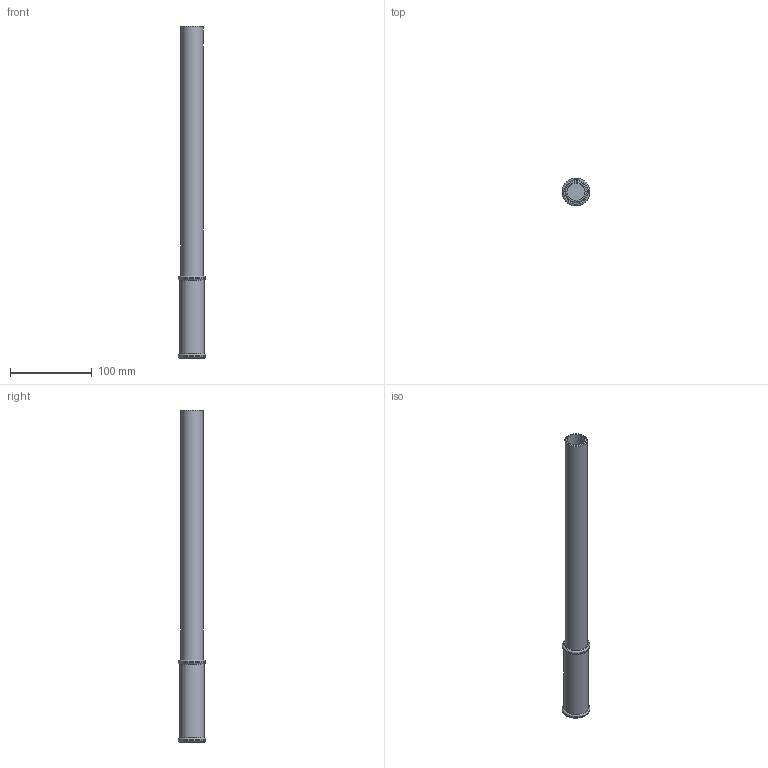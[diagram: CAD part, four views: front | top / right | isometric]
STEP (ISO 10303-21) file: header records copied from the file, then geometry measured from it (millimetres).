
FILE_DESCRIPTION(/* description */ ('Unknown'),/* implementation_level */ '2;1');
FILE_NAME(/* name */ 'LV27X400',/* time_stamp */ '2024-11-27T16:36:42+01:00',/* author */ ('Unknown'),/* organization */ ('Unknown'),/* preprocessor_version */ 'ST-DEVELOPER v19.4',/* originating_system */ 'Solid Edge',/* authorisation */ 'Unknown');
FILE_SCHEMA (('AUTOMOTIVE_DESIGN {1 0 10303 214 3 1 1}'));
Length unit declared in the file: millimetre
Products named in the file (1): LV27X400
Bounding box: 33.97 x 33.97 x 405 mm (x, y, z)
Volume: 94824.9 mm3; surface area: 64860.8 mm2
Topology: 1 solids, 1 shells, 15 faces, 33 edges, 20 vertices
Faces by surface type: cylinder 6, plane 4, torus 4, cone 1
Full cylindrical faces by diameter (mm): 5 x1, 22 x1, 27 x1, 30 x1, 34 x2
Entity records: 352 total; most frequent: CARTESIAN_POINT 66, DIRECTION 58, ORIENTED_EDGE 30, EDGE_LOOP 30, FACE_BOUND 30, AXIS2_PLACEMENT_3D 29, EDGE_CURVE 15, VERTEX_POINT 15
